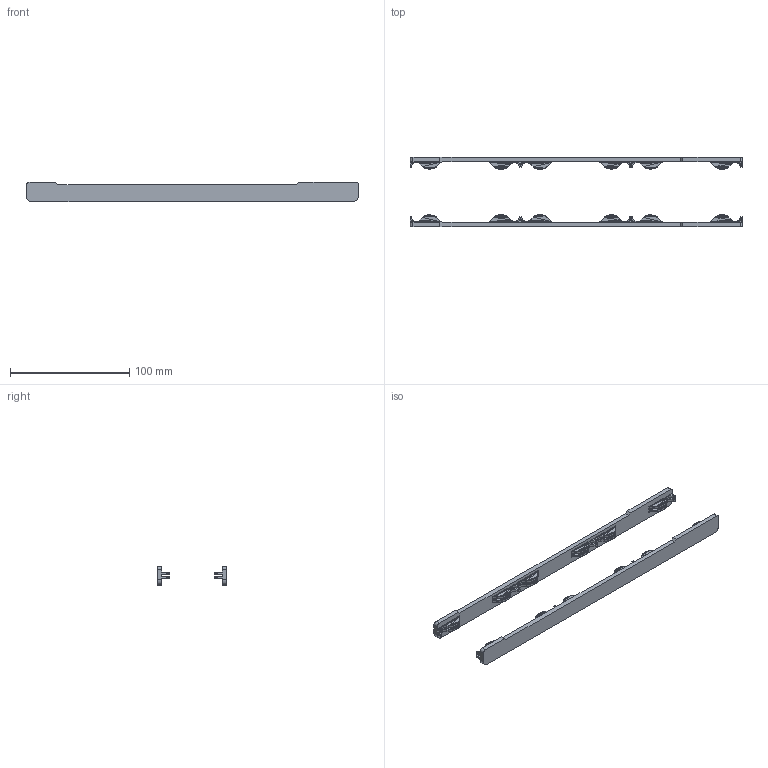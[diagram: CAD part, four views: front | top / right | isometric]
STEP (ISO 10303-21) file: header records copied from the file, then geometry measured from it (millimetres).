
FILE_DESCRIPTION(/* description */ (''),/* implementation_level */ '2;1');
FILE_NAME(/* name */ '22b2df02-1d6d-4e2b-bd10-16157369d497.stp',/* time_stamp */ '2025-11-30T21:35:02Z',/* author */ (''),/* organization */ (''),/* preprocessor_version */ 'ST-DEVELOPER v20.1',/* originating_system */ 'Autodesk Translation Framework v14.21.0.0',/* authorisation */ '');
FILE_SCHEMA (('AUTOMOTIVE_DESIGN { 1 0 10303 214 3 1 1 }'));
Products named in the file (1): Noctua A9x14 Rails
Bounding box: 278 x 58.4 x 16 mm (x, y, z)
Volume: 36024.4 mm3; surface area: 25983.5 mm2
Topology: 2 solids, 2 shells, 5794 faces, 9174 edges, 3348 vertices
Faces by surface type: plane 5784, cylinder 10
Entity records: 117354 total; most frequent: DIRECTION 20784, ORIENTED_EDGE 18348, CARTESIAN_POINT 18317, EDGE_CURVE 9174, LINE 9154, VECTOR 9154, AXIS2_PLACEMENT_3D 5815, EDGE_LOOP 5806
